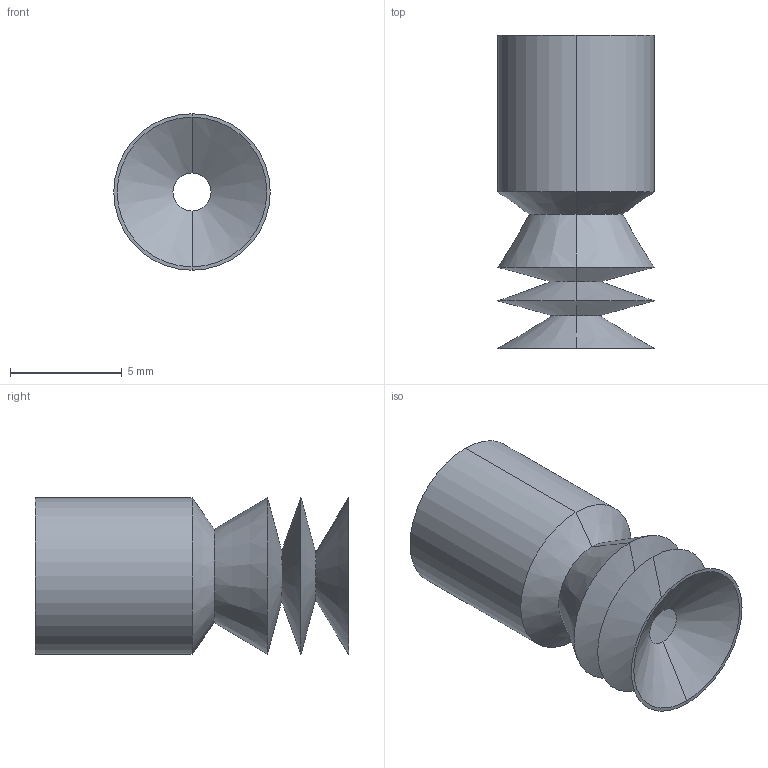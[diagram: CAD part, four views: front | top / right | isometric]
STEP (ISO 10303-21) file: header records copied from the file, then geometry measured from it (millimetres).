
FILE_DESCRIPTION (( 'STEP AP214' ), '1' );
FILE_NAME ('VSR3-S7.STEP', '2019-11-18T09:36:46', ( '微软用户' ), ( '微软中国' ), 'SwSTEP 2.0', 'SolidWorks 2016', '' );
FILE_SCHEMA (( 'AUTOMOTIVE_DESIGN' ));
Length unit declared in the file: millimetre
Products named in the file (1): VSR3-S7
Bounding box: 7 x 14 x 7 mm (x, y, z)
Volume: 209.2 mm3; surface area: 695 mm2
Topology: 1 solids, 1 shells, 28 faces, 56 edges, 30 vertices
Faces by surface type: cone 22, cylinder 4, plane 2
Entity records: 752 total; most frequent: DIRECTION 144, CARTESIAN_POINT 115, ORIENTED_EDGE 112, AXIS2_PLACEMENT_3D 59, EDGE_CURVE 56, VERTEX_POINT 30, CIRCLE 30, EDGE_LOOP 30
